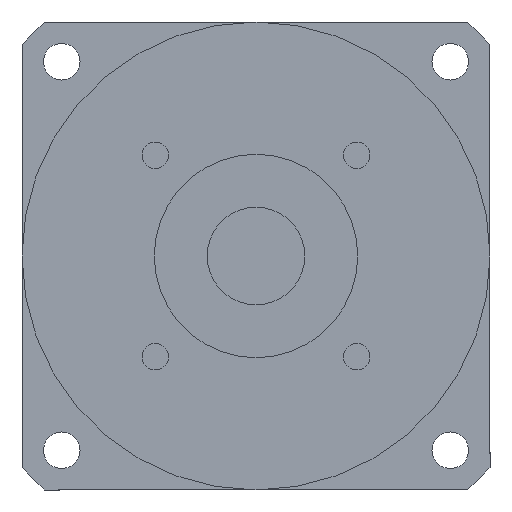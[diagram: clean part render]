
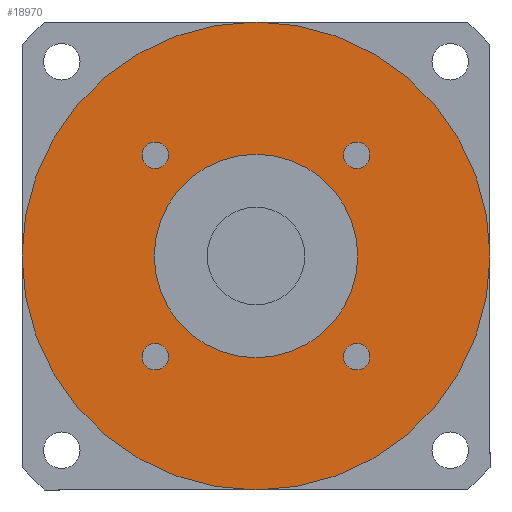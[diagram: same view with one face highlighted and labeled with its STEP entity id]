
A CAD part, left-side view. The second image highlights one B-rep face of the part: STEP entity #18970.
In plain terms, the highlighted planar face has unit normal (-1, 0, 0) as drawn and (0, 0, -1) by its records, which use the part's own axes.
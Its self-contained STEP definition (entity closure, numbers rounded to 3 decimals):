
#15820=CARTESIAN_POINT('',(24.749,-21.499,-120.));
#15830=VERTEX_POINT('',#15820);
#16010=CARTESIAN_POINT('',(24.749,-27.999,-120.));
#16020=VERTEX_POINT('',#16010);
#16050=CARTESIAN_POINT('',(24.749,-24.749,-120.));
#16060=DIRECTION('',(0.,0.,-1.));
#16070=DIRECTION('',(1.,0.,0.));
#16080=AXIS2_PLACEMENT_3D('',#16050,#16060,#16070);
#16090=CIRCLE('',#16080,3.25);
#16100=CARTESIAN_POINT('',(27.999,-24.749,-120.));
#16110=VERTEX_POINT('',#16100);
#16120=EDGE_CURVE('',#16110,#16020,#16090,.T.);
#16140=EDGE_CURVE('',#15830,#16110,#16090,.T.);
#16240=CARTESIAN_POINT('',(0.,0.,
-120.));
#16250=DIRECTION('',(0.,0.,1.));
#16260=DIRECTION('',(0.,-1.,0.));
#16270=AXIS2_PLACEMENT_3D('',#16240,#16250,#16260);
#16280=CIRCLE('',#16270,25.);
#16290=CARTESIAN_POINT('',(0.,-25.,-120.));
#16300=VERTEX_POINT('',#16290);
#16310=CARTESIAN_POINT('',(25.,0.,-120.));
#16320=VERTEX_POINT('',#16310);
#16330=EDGE_CURVE('',#16300,#16320,#16280,.T.);
#16600=CARTESIAN_POINT('',(-25.,0.,-120.));
#16610=VERTEX_POINT('',#16600);
#16640=EDGE_CURVE('',#16610,#16300,#16280,.T.);
#17900=CARTESIAN_POINT('',(57.5,0.,-120.));
#17910=VERTEX_POINT('',#17900);
#17940=CARTESIAN_POINT('',(0.,0.,
-120.));
#17950=DIRECTION('',(0.,0.,1.));
#17960=DIRECTION('',(0.,-1.,0.));
#17970=AXIS2_PLACEMENT_3D('',#17940,#17950,#17960);
#17980=CIRCLE('',#17970,57.5);
#17990=CARTESIAN_POINT('',(0.,-57.5,-120.));
#18000=VERTEX_POINT('',#17990);
#18010=EDGE_CURVE('',#18000,#17910,#17980,.T.);
#18030=CARTESIAN_POINT('',(-57.5,0.,-120.));
#18040=VERTEX_POINT('',#18030);
#18050=EDGE_CURVE('',#18040,#18000,#17980,.T.);
#18170=CARTESIAN_POINT('',(0.,0.,
-120.));
#18180=DIRECTION('',(0.,0.,1.));
#18190=DIRECTION('',(-1.,0.,0.));
#18200=AXIS2_PLACEMENT_3D('',#18170,#18180,#18190);
#18210=PLANE('',#18200);
#18220=CARTESIAN_POINT('',(24.749,24.749,-120.));
#18230=DIRECTION('',(0.,0.,-1.));
#18240=DIRECTION('',(0.,1.,0.));
#18250=AXIS2_PLACEMENT_3D('',#18220,#18230,#18240);
#18260=CIRCLE('',#18250,3.25);
#18270=CARTESIAN_POINT('',(24.749,27.999,-120.));
#18280=VERTEX_POINT('',#18270);
#18290=CARTESIAN_POINT('',(27.999,24.749,-120.));
#18300=VERTEX_POINT('',#18290);
#18310=EDGE_CURVE('',#18280,#18300,#18260,.T.);
#18320=ORIENTED_EDGE('',*,*,#18310,.F.);
#18330=CARTESIAN_POINT('',(21.499,24.749,-120.));
#18340=VERTEX_POINT('',#18330);
#18350=EDGE_CURVE('',#18300,#18340,#18260,.T.);
#18360=ORIENTED_EDGE('',*,*,#18350,.F.);
#18370=EDGE_CURVE('',#18340,#18280,#18260,.T.);
#18380=ORIENTED_EDGE('',*,*,#18370,.F.);
#18390=EDGE_LOOP('',(#18380,#18360,#18320));
#18400=FACE_BOUND('',#18390,.T.);
#18410=CARTESIAN_POINT('',(-24.749,24.749,-120.));
#18420=DIRECTION('',(0.,0.,-1.));
#18430=DIRECTION('',(-1.,0.,0.));
#18440=AXIS2_PLACEMENT_3D('',#18410,#18420,#18430);
#18450=CIRCLE('',#18440,3.25);
#18460=CARTESIAN_POINT('',(-27.999,24.749,-120.));
#18470=VERTEX_POINT('',#18460);
#18480=CARTESIAN_POINT('',(-24.749,27.999,-120.));
#18490=VERTEX_POINT('',#18480);
#18500=EDGE_CURVE('',#18470,#18490,#18450,.T.);
#18510=ORIENTED_EDGE('',*,*,#18500,.F.);
#18520=CARTESIAN_POINT('',(-24.749,21.499,-120.));
#18530=VERTEX_POINT('',#18520);
#18540=EDGE_CURVE('',#18490,#18530,#18450,.T.);
#18550=ORIENTED_EDGE('',*,*,#18540,.F.);
#18560=EDGE_CURVE('',#18530,#18470,#18450,.T.);
#18570=ORIENTED_EDGE('',*,*,#18560,.F.);
#18580=EDGE_LOOP('',(#18570,#18550,#18510));
#18590=FACE_BOUND('',#18580,.T.);
#18600=CARTESIAN_POINT('',(-24.749,-24.749,-120.));
#18610=DIRECTION('',(0.,0.,-1.));
#18620=DIRECTION('',(0.,-1.,0.));
#18630=AXIS2_PLACEMENT_3D('',#18600,#18610,#18620);
#18640=CIRCLE('',#18630,3.25);
#18650=CARTESIAN_POINT('',(-24.749,-27.999,-120.));
#18660=VERTEX_POINT('',#18650);
#18670=CARTESIAN_POINT('',(-27.999,-24.749,-120.));
#18680=VERTEX_POINT('',#18670);
#18690=EDGE_CURVE('',#18660,#18680,#18640,.T.);
#18700=ORIENTED_EDGE('',*,*,#18690,.F.);
#18710=CARTESIAN_POINT('',(-21.499,-24.749,-120.));
#18720=VERTEX_POINT('',#18710);
#18730=EDGE_CURVE('',#18680,#18720,#18640,.T.);
#18740=ORIENTED_EDGE('',*,*,#18730,.F.);
#18750=EDGE_CURVE('',#18720,#18660,#18640,.T.);
#18760=ORIENTED_EDGE('',*,*,#18750,.F.);
#18770=EDGE_LOOP('',(#18760,#18740,#18700));
#18780=FACE_BOUND('',#18770,.T.);
#18790=EDGE_CURVE('',#16320,#16610,#16280,.T.);
#18800=ORIENTED_EDGE('',*,*,#18790,.T.);
#18810=ORIENTED_EDGE('',*,*,#16330,.T.);
#18820=ORIENTED_EDGE('',*,*,#16640,.T.);
#18830=EDGE_LOOP('',(#18820,#18810,#18800));
#18840=FACE_BOUND('',#18830,.T.);
#18850=ORIENTED_EDGE('',*,*,#16120,.F.);
#18860=EDGE_CURVE('',#16020,#15830,#16090,.T.);
#18870=ORIENTED_EDGE('',*,*,#18860,.F.);
#18880=ORIENTED_EDGE('',*,*,#16140,.F.);
#18890=EDGE_LOOP('',(#18880,#18870,#18850));
#18900=FACE_BOUND('',#18890,.T.);
#18910=ORIENTED_EDGE('',*,*,#18010,.F.);
#18920=EDGE_CURVE('',#17910,#18040,#17980,.T.);
#18930=ORIENTED_EDGE('',*,*,#18920,.F.);
#18940=ORIENTED_EDGE('',*,*,#18050,.F.);
#18950=EDGE_LOOP('',(#18940,#18930,#18910));
#18960=FACE_OUTER_BOUND('',#18950,.T.);
#18970=ADVANCED_FACE('',(#18400,#18590,#18780,#18840,#18900,#18960),
#18210,.F.);
